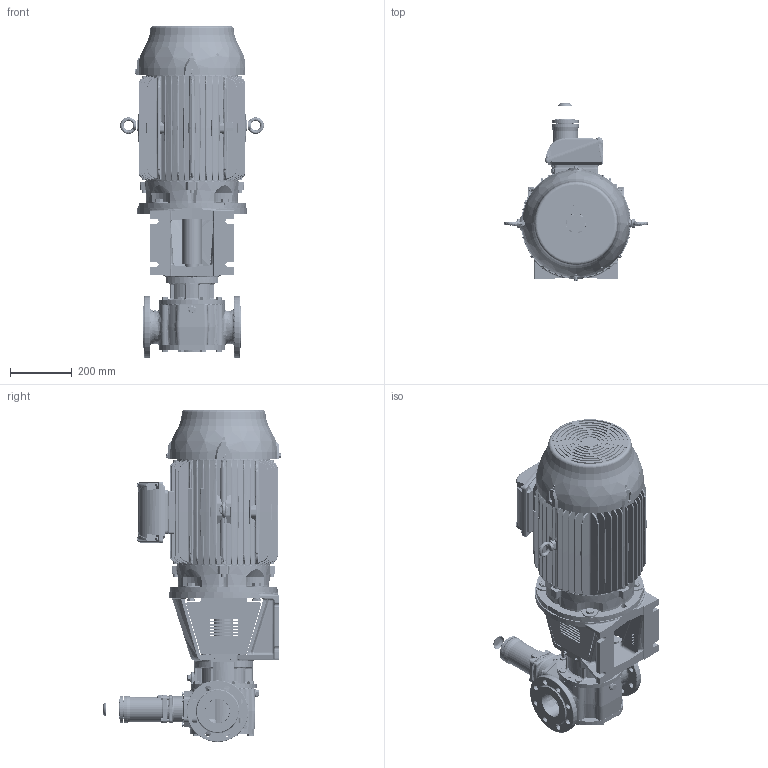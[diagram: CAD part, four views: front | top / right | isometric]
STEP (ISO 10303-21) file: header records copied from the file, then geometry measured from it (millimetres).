
FILE_DESCRIPTION(/* description */ (''),/* implementation_level */ '2;1');
FILE_NAME(/* name */ 'C:\V\JPP\Designs\GEAR PUMPS\PRODUCT ENGINEERING\EUROPE\TG BLOC\TG BLOC_58-80_G2_O_RV1-_180L-STEP.stp',/* time_stamp */ '2021-03-19T10:52:25+01:00',/* author */ ('A77THR'),/* organization */ (''),/* preprocessor_version */ 'ST-DEVELOPER v18.1',/* originating_system */ 'Autodesk Inventor 2020',/* authorisation */ '');
FILE_SCHEMA (('AUTOMOTIVE_DESIGN { 1 0 10303 214 3 1 1 }'));
Length unit declared in the file: millimetre
Products named in the file (1): TG BLOC_58-80_G2_O_RV1-_180L
Bounding box: 466 x 576.64 x 1076.7 mm (x, y, z)
Volume: 63359544.7 mm3; surface area: 2858043 mm2
Topology: 4 solids, 4 shells, 5472 faces, 14009 edges, 8726 vertices
Faces by surface type: plane 1939, bspline 1493, cylinder 1270, cone 557, torus 151, sphere 62
Full cylindrical faces by diameter (mm): 4 x1, 4.5 x8, 4.917 x8, 5 x4, 5.459 x4, 6 x4, 6.3 x1, 6.647 x1, 6.8 x2, 7 x8, 7.323 x12, 8 x11, 8.7 x4, 9 x12, 10 x8, 10.106 x7, 10.2 x2, 11.053 x4, 11.4 x12, 11.445 x2, 11.6 x3, 12 x4, 13 x1, 13.157 x2, 13.2 x2, 14 x8, 15.011 x2, 16 x5, 17.2 x20, 18 x18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
Entity records: 247885 total; most frequent: CARTESIAN_POINT 120340, ORIENTED_EDGE 27848, DIRECTION 22942, EDGE_CURVE 13924, AXIS2_PLACEMENT_3D 9033, VERTEX_POINT 8728, EDGE_LOOP 5880, FACE_OUTER_BOUND 5472
